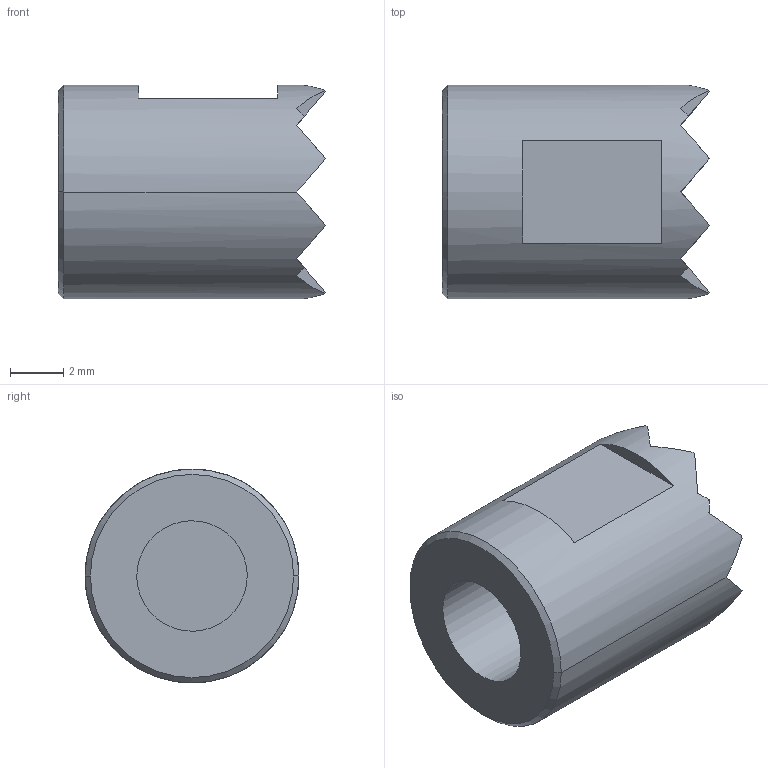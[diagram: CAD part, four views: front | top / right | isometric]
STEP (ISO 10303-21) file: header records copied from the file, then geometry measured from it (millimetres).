
FILE_DESCRIPTION(('CATIA V5 STEP Exchange'),'2;1');
FILE_NAME('\\kjf-102\KJF_TC\Hydraulic_Clamp\Standard\TOGGLE PAD\CP-10\CP-10_-.stp','2024-07-08T03:23:09+00:00',('none'),('none'),'CATIA Version 5 Release 19 SP 9 (IN-10)','CATIA V5 STEP AP214','none');
FILE_SCHEMA(('AUTOMOTIVE_DESIGN { 1 0 10303 214 1 1 1 1 }'));
Length unit declared in the file: millimetre
Products named in the file (1): CP-10_-
Bounding box: 10 x 8 x 8 mm (x, y, z)
Volume: 381.3 mm3; surface area: 426.9 mm2
Topology: 1 solids, 1 shells, 67 faces, 128 edges, 65 vertices
Faces by surface type: plane 61, cylinder 4, cone 2
Entity records: 1509 total; most frequent: CARTESIAN_POINT 391, ORIENTED_EDGE 256, DIRECTION 146, EDGE_CURVE 128, VECTOR 86, LINE 86, EDGE_LOOP 69, ADVANCED_FACE 67
